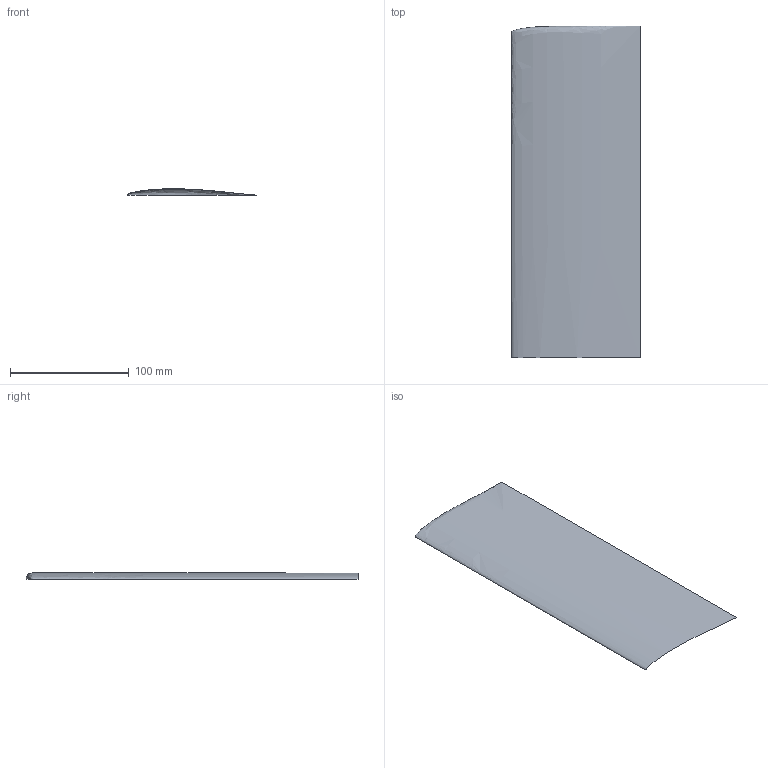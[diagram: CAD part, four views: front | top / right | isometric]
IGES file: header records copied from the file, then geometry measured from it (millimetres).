
Start section: This file was written from GridTool (For more information see ht tp://geolab.larc.nasa.gov/GridTool) or contact GridTool author: Jamshid Samareh (j.a.samareh@larc.nasa.gov)
Global section: file name: /usr2/people/rosen/nets_pact/mx12/keelninp.igs; native system: Jamshid_system(j.a.samareh@larc.nasa.gov); preprocessor: V.0.0.0.0.0; author: Jamshid_Samareh; organization: CSC; date: 970920.185855; units: inch
Bounding box: 108.33 x 279.91 x 5.37 mm (x, y, z)
Surface area: 30832.3 mm2 (no closed solid volume)
Topology: 0 solids, 0 shells, 1 faces, 4 edges, 4 vertices
Faces by surface type: bspline 1
